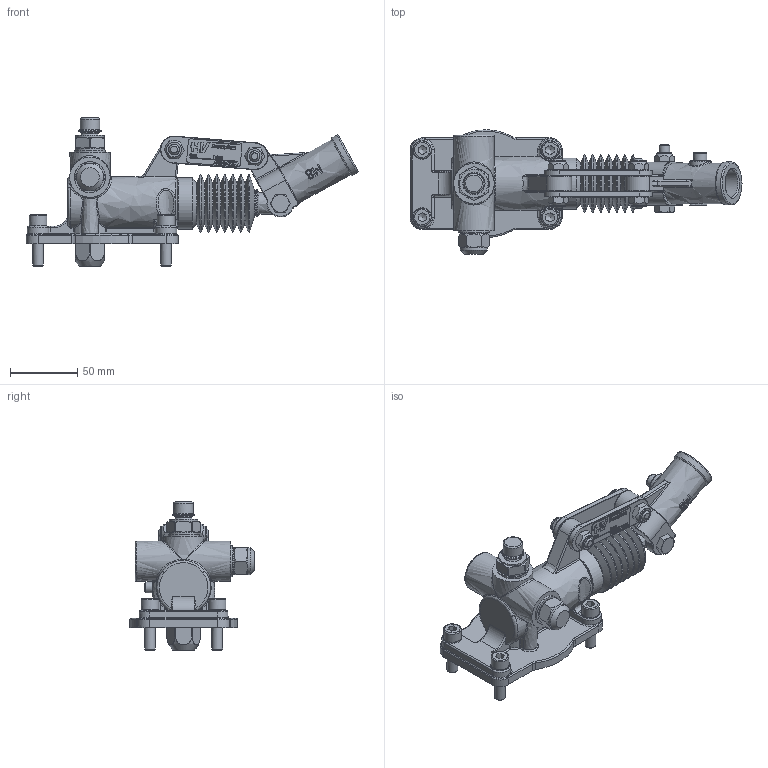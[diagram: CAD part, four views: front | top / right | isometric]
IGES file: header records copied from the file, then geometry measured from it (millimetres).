
Global section: file name: No Iges File Name specified; native system: Autodesk Inventor 2013; preprocessor: AutoDesk Inventor Iges Exporter R2013; author: christian.scardovi; date: 20240325.161610; units: millimetre
Bounding box: 246.62 x 92.49 x 110 mm (x, y, z)
Volume: 345655.2 mm3; surface area: 90975.1 mm2
Topology: 1 solids, 1 shells, 1333 faces, 3312 edges, 2058 vertices
Faces by surface type: bspline 1333
